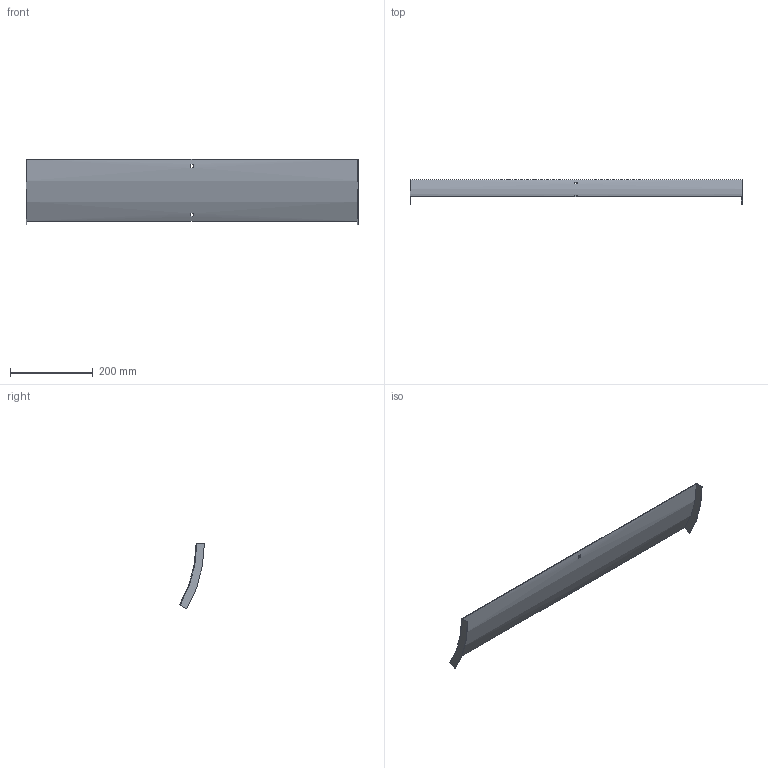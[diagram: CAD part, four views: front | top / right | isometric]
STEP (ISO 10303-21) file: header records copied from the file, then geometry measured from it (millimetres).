
FILE_DESCRIPTION (( 'STEP AP214' ), '1' );
FILE_NAME ('B2X32N3R800X.step', '2025-03-20T09:40:15', ( '' ), ( '' ), 'SwSTEP 2.0', 'SolidWorks 2023', '' );
FILE_SCHEMA (( 'AUTOMOTIVE_DESIGN' ));
Length unit declared in the file: millimetre
Products named in the file (1): B2X32N3R800X
Bounding box: 803 x 59.99 x 159.25 mm (x, y, z)
Volume: 197540.4 mm3; surface area: 266499.4 mm2
Topology: 1 solids, 1 shells, 18 faces, 48 edges, 32 vertices
Faces by surface type: plane 14, cylinder 4
Entity records: 599 total; most frequent: DIRECTION 102, CARTESIAN_POINT 99, ORIENTED_EDGE 96, EDGE_CURVE 48, AXIS2_PLACEMENT_3D 35, VERTEX_POINT 32, LINE 32, VECTOR 32
